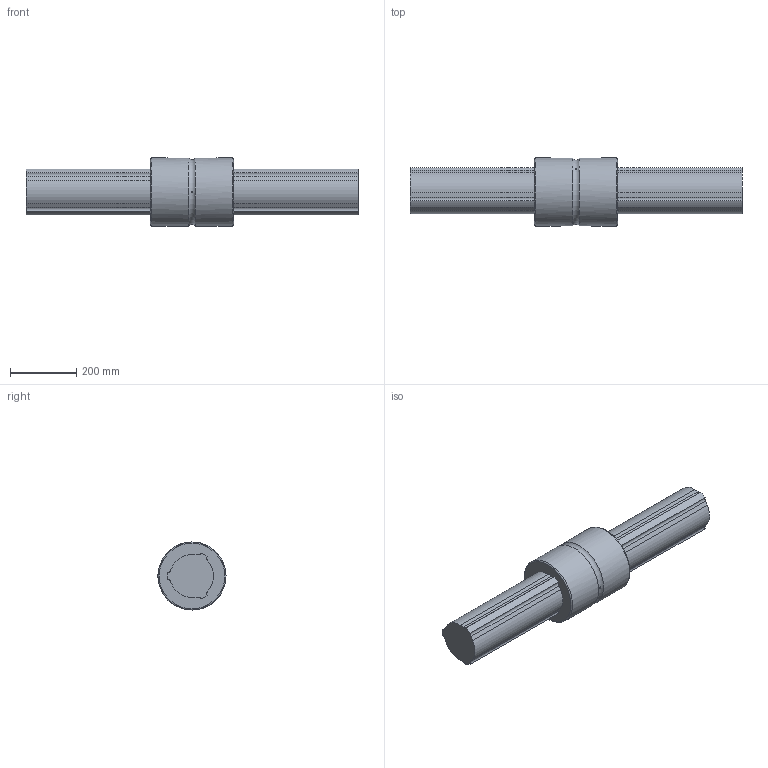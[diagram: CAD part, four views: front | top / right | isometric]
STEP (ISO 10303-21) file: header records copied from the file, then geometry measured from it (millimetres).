
FILE_DESCRIPTION(/* description */ ('STEP AP214'),/* implementation_level */ '2;1');
FILE_NAME(/* name */ 'LBST150+1000L(2503750)',/* time_stamp */ '2024-09-04T12:58:36+02:00',/* author */ ('License CC BY-ND 4.0'),/* organization */ ('CADENAS'),/* preprocessor_version */ 'ST-DEVELOPER v19.3',/* originating_system */ 'PARTsolutions',/* authorisation */ ' ');
FILE_SCHEMA (('AUTOMOTIVE_DESIGN {1 0 10303 214 3 1 1}'));
Length unit declared in the file: millimetre
Products named in the file (3): LBST150+1000L(2503750); LBST15011000 Spline Shaft; LBST150 Nut
Assembly tree (2 placements, depth 2):
  LBST150+1000L(2503750)
    LBST15011000 Spline Shaft
    LBST150 Nut
Bounding box: 1000 x 205 x 205 mm (x, y, z)
Volume: 18633173.1 mm3; surface area: 783650.2 mm2
Topology: 3 solids, 3 shells, 57 faces, 148 edges, 99 vertices
Faces by surface type: cylinder 31, plane 22, torus 4
Full cylindrical faces by diameter (mm): 6 x3, 205 x2
Entity records: 1821 total; most frequent: CARTESIAN_POINT 366, DIRECTION 306, ORIENTED_EDGE 272, EDGE_CURVE 136, AXIS2_PLACEMENT_3D 118, VERTEX_POINT 94, LINE 70, VECTOR 70
